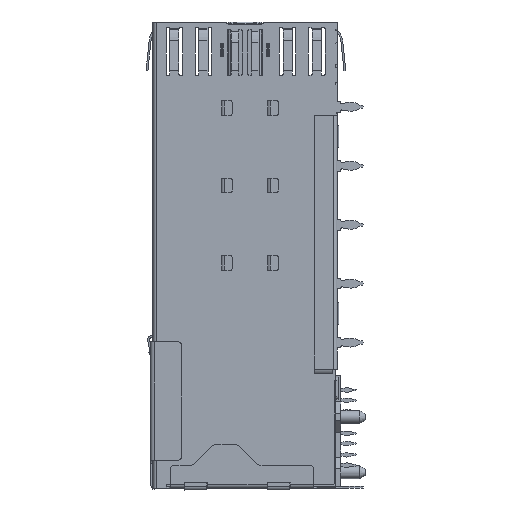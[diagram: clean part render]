
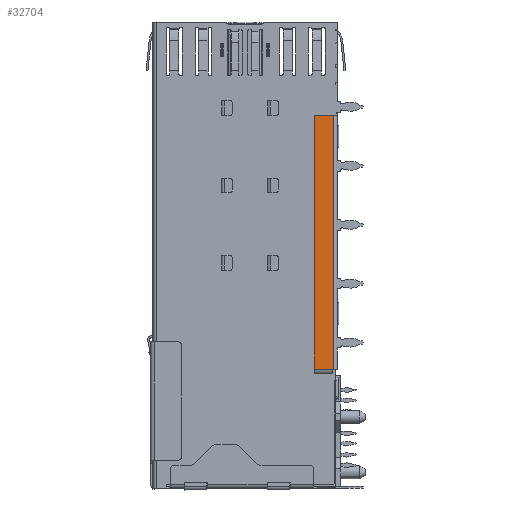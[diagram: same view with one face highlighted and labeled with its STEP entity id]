
A CAD part, left-side view. The second image highlights one B-rep face of the part: STEP entity #32704.
In plain terms, the highlighted planar face has unit normal (-1, 0, 0).
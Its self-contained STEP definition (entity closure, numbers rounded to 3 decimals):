
#1945=DIRECTION('',(0.,0.,-1.));
#1946=VECTOR('',#1945,34.517);
#1947=CARTESIAN_POINT('',(32.655,-17.602,50.846));
#1948=LINE('',#1947,#1946);
#3237=DIRECTION('',(-0.009,-1.,0.));
#3238=VECTOR('',#3237,0.127);
#3239=CARTESIAN_POINT('',(32.656,-17.475,16.329));
#3240=LINE('',#3239,#3238);
#3241=DIRECTION('',(0.,-1.,0.));
#3242=VECTOR('',#3241,2.5);
#3243=CARTESIAN_POINT('',(32.657,-14.975,16.329));
#3244=LINE('',#3243,#3242);
#3245=DIRECTION('',(-0.001,0.,1.));
#3246=VECTOR('',#3245,2.798);
#3247=CARTESIAN_POINT('',(32.657,-14.975,16.329));
#3248=LINE('',#3247,#3246);
#3249=DIRECTION('',(0.,0.,-1.));
#3250=VECTOR('',#3249,31.719);
#3251=CARTESIAN_POINT('',(32.655,-14.975,50.846));
#3252=LINE('',#3251,#3250);
#20252=DIRECTION('',(0.,-1.,0.));
#20253=VECTOR('',#20252,2.627);
#20254=CARTESIAN_POINT('',(32.655,-14.975,
50.846));
#20255=LINE('',#20254,#20253);
#23884=CARTESIAN_POINT('',(32.655,-17.602,
50.846));
#23886=VERTEX_POINT('',#23884);
#23888=CARTESIAN_POINT('',(32.655,-14.975,
50.846));
#23889=VERTEX_POINT('',#23888);
#24456=CARTESIAN_POINT('',(32.655,-14.975,
19.127));
#24457=VERTEX_POINT('',#24456);
#24458=CARTESIAN_POINT('',(32.655,-17.602,
16.329));
#24459=VERTEX_POINT('',#24458);
#24490=CARTESIAN_POINT('',(32.656,-17.475,
16.329));
#24491=VERTEX_POINT('',#24490);
#25168=CARTESIAN_POINT('',(32.657,-14.975,
16.329));
#25169=VERTEX_POINT('',#25168);
#32687=CARTESIAN_POINT('',(32.655,-16.373,
36.326));
#32688=DIRECTION('',(-1.,0.,0.));
#32689=DIRECTION('',(0.,0.,1.));
#32690=AXIS2_PLACEMENT_3D('',#32687,#32688,#32689);
#32691=PLANE('',#32690);
#32692=ORIENTED_EDGE('',*,*,#31714,.T.);
#32694=ORIENTED_EDGE('',*,*,#32693,.F.);
#32695=ORIENTED_EDGE('',*,*,#32678,.F.);
#32697=ORIENTED_EDGE('',*,*,#32696,.T.);
#32699=ORIENTED_EDGE('',*,*,#32698,.F.);
#32701=ORIENTED_EDGE('',*,*,#32700,.T.);
#32702=EDGE_LOOP('',(#32692,#32694,#32695,#32697,#32699,#32701));
#32703=FACE_OUTER_BOUND('',#32702,.F.);
#32704=ADVANCED_FACE('',(#32703),#32691,.T.);
#31714=EDGE_CURVE('',#23886,#24459,#1948,.T.);
#32678=EDGE_CURVE('',#25169,#24491,#3244,.T.);
#32693=EDGE_CURVE('',#24491,#24459,#3240,.T.);
#32696=EDGE_CURVE('',#25169,#24457,#3248,.T.);
#32698=EDGE_CURVE('',#23889,#24457,#3252,.T.);
#32700=EDGE_CURVE('',#23889,#23886,#20255,.T.);
